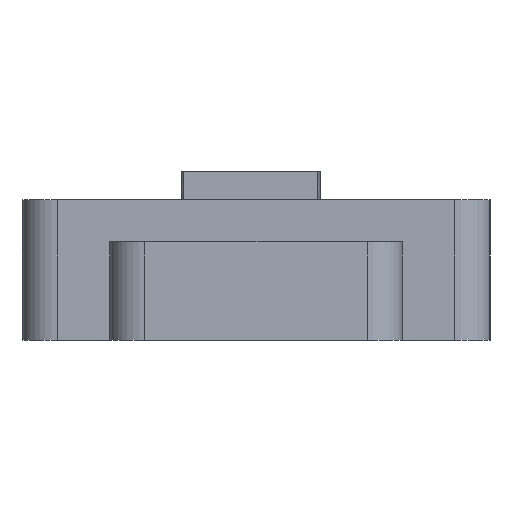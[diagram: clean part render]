
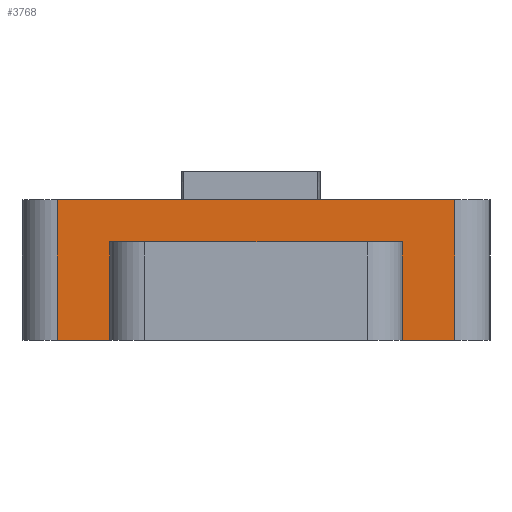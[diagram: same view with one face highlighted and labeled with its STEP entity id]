
A CAD part, left-side view. The second image highlights one B-rep face of the part: STEP entity #3768.
In plain terms, the highlighted planar face has unit normal (-1, 0, 0).
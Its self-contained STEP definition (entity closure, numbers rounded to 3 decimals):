
#62 = PLANE('',#63);
#63 = AXIS2_PLACEMENT_3D('',#64,#65,#66);
#64 = CARTESIAN_POINT('',(0.,0.,0.));
#65 = DIRECTION('',(0.,0.,1.));
#66 = DIRECTION('',(1.,0.,-0.));
#90 = CYLINDRICAL_SURFACE('',#91,0.6);
#91 = AXIS2_PLACEMENT_3D('',#92,#93,#94);
#92 = CARTESIAN_POINT('',(-14.25,-3.4,0.));
#93 = DIRECTION('',(0.,0.,1.));
#94 = DIRECTION('',(0.,-1.,0.));
#118 = PLANE('',#119);
#119 = AXIS2_PLACEMENT_3D('',#120,#121,#122);
#120 = CARTESIAN_POINT('',(0.,0.,2.4));
#121 = DIRECTION('',(0.,0.,1.));
#122 = DIRECTION('',(1.,0.,-0.));
#160 = VERTEX_POINT('',#161);
#161 = CARTESIAN_POINT('',(-14.85,-3.4,0.));
#463 = VERTEX_POINT('',#464);
#464 = CARTESIAN_POINT('',(-14.85,3.4,0.));
#479 = CYLINDRICAL_SURFACE('',#480,0.6);
#480 = AXIS2_PLACEMENT_3D('',#481,#482,#483);
#481 = CARTESIAN_POINT('',(-14.25,3.4,0.));
#482 = DIRECTION('',(0.,0.,1.));
#483 = DIRECTION('',(-0.,1.,0.));
#491 = EDGE_CURVE('',#463,#492,#494,.T.);
#492 = VERTEX_POINT('',#493);
#493 = CARTESIAN_POINT('',(-14.85,2.5,0.));
#494 = SURFACE_CURVE('',#495,(#499,#506),.PCURVE_S1.);
#495 = LINE('',#496,#497);
#496 = CARTESIAN_POINT('',(-14.85,4.,0.));
#497 = VECTOR('',#498,1.);
#498 = DIRECTION('',(0.,-1.,0.));
#499 = PCURVE('',#62,#500);
#500 = DEFINITIONAL_REPRESENTATION('',(#501),#505);
#501 = LINE('',#502,#503);
#502 = CARTESIAN_POINT('',(-14.85,4.));
#503 = VECTOR('',#504,1.);
#504 = DIRECTION('',(0.,-1.));
#505 = ( GEOMETRIC_REPRESENTATION_CONTEXT(2) 
PARAMETRIC_REPRESENTATION_CONTEXT() REPRESENTATION_CONTEXT('2D SPACE',''
  ) );
#506 = PCURVE('',#507,#512);
#507 = PLANE('',#508);
#508 = AXIS2_PLACEMENT_3D('',#509,#510,#511);
#509 = CARTESIAN_POINT('',(-14.85,4.,0.));
#510 = DIRECTION('',(1.,0.,-0.));
#511 = DIRECTION('',(0.,-1.,0.));
#512 = DEFINITIONAL_REPRESENTATION('',(#513),#517);
#513 = LINE('',#514,#515);
#514 = CARTESIAN_POINT('',(0.,0.));
#515 = VECTOR('',#516,1.);
#516 = DIRECTION('',(1.,0.));
#517 = ( GEOMETRIC_REPRESENTATION_CONTEXT(2) 
PARAMETRIC_REPRESENTATION_CONTEXT() REPRESENTATION_CONTEXT('2D SPACE',''
  ) );
#535 = PLANE('',#536);
#536 = AXIS2_PLACEMENT_3D('',#537,#538,#539);
#537 = CARTESIAN_POINT('',(-13.85,2.5,0.));
#538 = DIRECTION('',(0.,-1.,0.));
#539 = DIRECTION('',(-1.,0.,0.));
#638 = VERTEX_POINT('',#639);
#639 = CARTESIAN_POINT('',(-14.85,-2.5,0.));
#653 = PLANE('',#654);
#654 = AXIS2_PLACEMENT_3D('',#655,#656,#657);
#655 = CARTESIAN_POINT('',(-17.25,-2.5,0.));
#656 = DIRECTION('',(0.,1.,0.));
#657 = DIRECTION('',(1.,0.,0.));
#665 = EDGE_CURVE('',#638,#160,#666,.T.);
#666 = SURFACE_CURVE('',#667,(#671,#678),.PCURVE_S1.);
#667 = LINE('',#668,#669);
#668 = CARTESIAN_POINT('',(-14.85,4.,0.));
#669 = VECTOR('',#670,1.);
#670 = DIRECTION('',(0.,-1.,0.));
#671 = PCURVE('',#62,#672);
#672 = DEFINITIONAL_REPRESENTATION('',(#673),#677);
#673 = LINE('',#674,#675);
#674 = CARTESIAN_POINT('',(-14.85,4.));
#675 = VECTOR('',#676,1.);
#676 = DIRECTION('',(0.,-1.));
#677 = ( GEOMETRIC_REPRESENTATION_CONTEXT(2) 
PARAMETRIC_REPRESENTATION_CONTEXT() REPRESENTATION_CONTEXT('2D SPACE',''
  ) );
#678 = PCURVE('',#507,#679);
#679 = DEFINITIONAL_REPRESENTATION('',(#680),#684);
#680 = LINE('',#681,#682);
#681 = CARTESIAN_POINT('',(0.,0.));
#682 = VECTOR('',#683,1.);
#683 = DIRECTION('',(1.,0.));
#684 = ( GEOMETRIC_REPRESENTATION_CONTEXT(2) 
PARAMETRIC_REPRESENTATION_CONTEXT() REPRESENTATION_CONTEXT('2D SPACE',''
  ) );
#690 = EDGE_CURVE('',#160,#691,#693,.T.);
#691 = VERTEX_POINT('',#692);
#692 = CARTESIAN_POINT('',(-14.85,-3.4,2.4));
#693 = SURFACE_CURVE('',#694,(#698,#705),.PCURVE_S1.);
#694 = LINE('',#695,#696);
#695 = CARTESIAN_POINT('',(-14.85,-3.4,0.));
#696 = VECTOR('',#697,1.);
#697 = DIRECTION('',(0.,0.,1.));
#698 = PCURVE('',#90,#699);
#699 = DEFINITIONAL_REPRESENTATION('',(#700),#704);
#700 = LINE('',#701,#702);
#701 = CARTESIAN_POINT('',(-1.571,0.));
#702 = VECTOR('',#703,1.);
#703 = DIRECTION('',(-0.,1.));
#704 = ( GEOMETRIC_REPRESENTATION_CONTEXT(2) 
PARAMETRIC_REPRESENTATION_CONTEXT() REPRESENTATION_CONTEXT('2D SPACE',''
  ) );
#705 = PCURVE('',#507,#706);
#706 = DEFINITIONAL_REPRESENTATION('',(#707),#711);
#707 = LINE('',#708,#709);
#708 = CARTESIAN_POINT('',(7.4,0.));
#709 = VECTOR('',#710,1.);
#710 = DIRECTION('',(0.,-1.));
#711 = ( GEOMETRIC_REPRESENTATION_CONTEXT(2) 
PARAMETRIC_REPRESENTATION_CONTEXT() REPRESENTATION_CONTEXT('2D SPACE',''
  ) );
#866 = VERTEX_POINT('',#867);
#867 = CARTESIAN_POINT('',(-14.85,3.4,2.4));
#889 = EDGE_CURVE('',#866,#691,#890,.T.);
#890 = SURFACE_CURVE('',#891,(#895,#902),.PCURVE_S1.);
#891 = LINE('',#892,#893);
#892 = CARTESIAN_POINT('',(-14.85,4.,2.4));
#893 = VECTOR('',#894,1.);
#894 = DIRECTION('',(0.,-1.,0.));
#895 = PCURVE('',#118,#896);
#896 = DEFINITIONAL_REPRESENTATION('',(#897),#901);
#897 = LINE('',#898,#899);
#898 = CARTESIAN_POINT('',(-14.85,4.));
#899 = VECTOR('',#900,1.);
#900 = DIRECTION('',(0.,-1.));
#901 = ( GEOMETRIC_REPRESENTATION_CONTEXT(2) 
PARAMETRIC_REPRESENTATION_CONTEXT() REPRESENTATION_CONTEXT('2D SPACE',''
  ) );
#902 = PCURVE('',#507,#903);
#903 = DEFINITIONAL_REPRESENTATION('',(#904),#908);
#904 = LINE('',#905,#906);
#905 = CARTESIAN_POINT('',(0.,-2.4));
#906 = VECTOR('',#907,1.);
#907 = DIRECTION('',(1.,0.));
#908 = ( GEOMETRIC_REPRESENTATION_CONTEXT(2) 
PARAMETRIC_REPRESENTATION_CONTEXT() REPRESENTATION_CONTEXT('2D SPACE',''
  ) );
#3768 = ADVANCED_FACE('',(#3769),#507,.F.);
#3769 = FACE_BOUND('',#3770,.F.);
#3770 = EDGE_LOOP('',(#3771,#3772,#3793,#3794,#3795,#3796,#3817,#3843));
#3771 = ORIENTED_EDGE('',*,*,#491,.F.);
#3772 = ORIENTED_EDGE('',*,*,#3773,.T.);
#3773 = EDGE_CURVE('',#463,#866,#3774,.T.);
#3774 = SURFACE_CURVE('',#3775,(#3779,#3786),.PCURVE_S1.);
#3775 = LINE('',#3776,#3777);
#3776 = CARTESIAN_POINT('',(-14.85,3.4,0.));
#3777 = VECTOR('',#3778,1.);
#3778 = DIRECTION('',(0.,0.,1.));
#3779 = PCURVE('',#507,#3780);
#3780 = DEFINITIONAL_REPRESENTATION('',(#3781),#3785);
#3781 = LINE('',#3782,#3783);
#3782 = CARTESIAN_POINT('',(0.6,0.));
#3783 = VECTOR('',#3784,1.);
#3784 = DIRECTION('',(0.,-1.));
#3785 = ( GEOMETRIC_REPRESENTATION_CONTEXT(2) 
PARAMETRIC_REPRESENTATION_CONTEXT() REPRESENTATION_CONTEXT('2D SPACE',''
  ) );
#3786 = PCURVE('',#479,#3787);
#3787 = DEFINITIONAL_REPRESENTATION('',(#3788),#3792);
#3788 = LINE('',#3789,#3790);
#3789 = CARTESIAN_POINT('',(1.571,0.));
#3790 = VECTOR('',#3791,1.);
#3791 = DIRECTION('',(0.,1.));
#3792 = ( GEOMETRIC_REPRESENTATION_CONTEXT(2) 
PARAMETRIC_REPRESENTATION_CONTEXT() REPRESENTATION_CONTEXT('2D SPACE',''
  ) );
#3793 = ORIENTED_EDGE('',*,*,#889,.T.);
#3794 = ORIENTED_EDGE('',*,*,#690,.F.);
#3795 = ORIENTED_EDGE('',*,*,#665,.F.);
#3796 = ORIENTED_EDGE('',*,*,#3797,.T.);
#3797 = EDGE_CURVE('',#638,#3798,#3800,.T.);
#3798 = VERTEX_POINT('',#3799);
#3799 = CARTESIAN_POINT('',(-14.85,-2.5,1.68));
#3800 = SURFACE_CURVE('',#3801,(#3805,#3811),.PCURVE_S1.);
#3801 = LINE('',#3802,#3803);
#3802 = CARTESIAN_POINT('',(-14.85,-2.5,0.));
#3803 = VECTOR('',#3804,1.);
#3804 = DIRECTION('',(0.,-0.,1.));
#3805 = PCURVE('',#507,#3806);
#3806 = DEFINITIONAL_REPRESENTATION('',(#3807),#3810);
#3807 = B_SPLINE_CURVE_WITH_KNOTS('',1,(#3808,#3809),.UNSPECIFIED.,.F.,
  .F.,(2,2),(0.,1.68),.PIECEWISE_BEZIER_KNOTS.);
#3808 = CARTESIAN_POINT('',(6.5,0.));
#3809 = CARTESIAN_POINT('',(6.5,-1.68));
#3810 = ( GEOMETRIC_REPRESENTATION_CONTEXT(2) 
PARAMETRIC_REPRESENTATION_CONTEXT() REPRESENTATION_CONTEXT('2D SPACE',''
  ) );
#3811 = PCURVE('',#653,#3812);
#3812 = DEFINITIONAL_REPRESENTATION('',(#3813),#3816);
#3813 = B_SPLINE_CURVE_WITH_KNOTS('',1,(#3814,#3815),.UNSPECIFIED.,.F.,
  .F.,(2,2),(0.,1.68),.PIECEWISE_BEZIER_KNOTS.);
#3814 = CARTESIAN_POINT('',(2.4,0.));
#3815 = CARTESIAN_POINT('',(2.4,-1.68));
#3816 = ( GEOMETRIC_REPRESENTATION_CONTEXT(2) 
PARAMETRIC_REPRESENTATION_CONTEXT() REPRESENTATION_CONTEXT('2D SPACE',''
  ) );
#3817 = ORIENTED_EDGE('',*,*,#3818,.F.);
#3818 = EDGE_CURVE('',#3819,#3798,#3821,.T.);
#3819 = VERTEX_POINT('',#3820);
#3820 = CARTESIAN_POINT('',(-14.85,2.5,1.68));
#3821 = SURFACE_CURVE('',#3822,(#3826,#3832),.PCURVE_S1.);
#3822 = LINE('',#3823,#3824);
#3823 = CARTESIAN_POINT('',(-14.85,2.,1.68));
#3824 = VECTOR('',#3825,1.);
#3825 = DIRECTION('',(0.,-1.,0.));
#3826 = PCURVE('',#507,#3827);
#3827 = DEFINITIONAL_REPRESENTATION('',(#3828),#3831);
#3828 = B_SPLINE_CURVE_WITH_KNOTS('',1,(#3829,#3830),.UNSPECIFIED.,.F.,
  .F.,(2,2),(-0.5,4.5),.PIECEWISE_BEZIER_KNOTS.);
#3829 = CARTESIAN_POINT('',(1.5,-1.68));
#3830 = CARTESIAN_POINT('',(6.5,-1.68));
#3831 = ( GEOMETRIC_REPRESENTATION_CONTEXT(2) 
PARAMETRIC_REPRESENTATION_CONTEXT() REPRESENTATION_CONTEXT('2D SPACE',''
  ) );
#3832 = PCURVE('',#3833,#3838);
#3833 = PLANE('',#3834);
#3834 = AXIS2_PLACEMENT_3D('',#3835,#3836,#3837);
#3835 = CARTESIAN_POINT('',(-15.55,0.,1.68));
#3836 = DIRECTION('',(0.,0.,1.));
#3837 = DIRECTION('',(1.,0.,-0.));
#3838 = DEFINITIONAL_REPRESENTATION('',(#3839),#3842);
#3839 = B_SPLINE_CURVE_WITH_KNOTS('',1,(#3840,#3841),.UNSPECIFIED.,.F.,
  .F.,(2,2),(-0.5,4.5),.PIECEWISE_BEZIER_KNOTS.);
#3840 = CARTESIAN_POINT('',(0.7,2.5));
#3841 = CARTESIAN_POINT('',(0.7,-2.5));
#3842 = ( GEOMETRIC_REPRESENTATION_CONTEXT(2) 
PARAMETRIC_REPRESENTATION_CONTEXT() REPRESENTATION_CONTEXT('2D SPACE',''
  ) );
#3843 = ORIENTED_EDGE('',*,*,#3844,.T.);
#3844 = EDGE_CURVE('',#3819,#492,#3845,.T.);
#3845 = SURFACE_CURVE('',#3846,(#3850,#3856),.PCURVE_S1.);
#3846 = LINE('',#3847,#3848);
#3847 = CARTESIAN_POINT('',(-14.85,2.5,0.));
#3848 = VECTOR('',#3849,1.);
#3849 = DIRECTION('',(0.,-0.,-1.));
#3850 = PCURVE('',#507,#3851);
#3851 = DEFINITIONAL_REPRESENTATION('',(#3852),#3855);
#3852 = B_SPLINE_CURVE_WITH_KNOTS('',1,(#3853,#3854),.UNSPECIFIED.,.F.,
  .F.,(2,2),(-1.68,0.),.PIECEWISE_BEZIER_KNOTS.);
#3853 = CARTESIAN_POINT('',(1.5,-1.68));
#3854 = CARTESIAN_POINT('',(1.5,0.));
#3855 = ( GEOMETRIC_REPRESENTATION_CONTEXT(2) 
PARAMETRIC_REPRESENTATION_CONTEXT() REPRESENTATION_CONTEXT('2D SPACE',''
  ) );
#3856 = PCURVE('',#535,#3857);
#3857 = DEFINITIONAL_REPRESENTATION('',(#3858),#3861);
#3858 = B_SPLINE_CURVE_WITH_KNOTS('',1,(#3859,#3860),.UNSPECIFIED.,.F.,
  .F.,(2,2),(-1.68,0.),.PIECEWISE_BEZIER_KNOTS.);
#3859 = CARTESIAN_POINT('',(1.,-1.68));
#3860 = CARTESIAN_POINT('',(1.,0.));
#3861 = ( GEOMETRIC_REPRESENTATION_CONTEXT(2) 
PARAMETRIC_REPRESENTATION_CONTEXT() REPRESENTATION_CONTEXT('2D SPACE',''
  ) );
